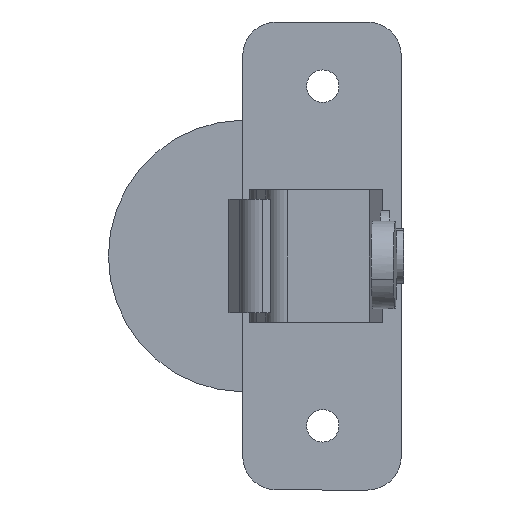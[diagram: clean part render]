
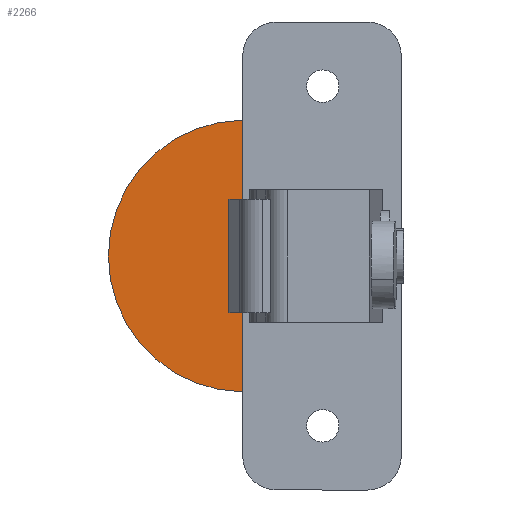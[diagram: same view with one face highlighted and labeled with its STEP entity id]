
A CAD part, left-side view. The second image highlights one B-rep face of the part: STEP entity #2266.
In plain terms, the highlighted planar face has unit normal (-1, 0, 0).
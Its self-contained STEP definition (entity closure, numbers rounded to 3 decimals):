
#9 = EDGE_CURVE ( 'NONE', #59, #2794, #2588, .T. ) ;
#10 = DIRECTION ( 'NONE',  ( 0., -1., 0. ) ) ;
#51 = EDGE_CURVE ( 'NONE', #229, #111, #1587, .T. ) ;
#59 = VERTEX_POINT ( 'NONE', #1267 ) ;
#111 = VERTEX_POINT ( 'NONE', #1090 ) ;
#210 = EDGE_CURVE ( 'NONE', #2549, #111, #2107, .T. ) ;
#229 = VERTEX_POINT ( 'NONE', #1329 ) ;
#275 = ORIENTED_EDGE ( 'NONE', *, *, #417, .T. ) ;
#281 = ORIENTED_EDGE ( 'NONE', *, *, #410, .T. ) ;
#286 = ORIENTED_EDGE ( 'NONE', *, *, #362, .T. ) ;
#288 = CARTESIAN_POINT ( 'NONE',  ( 151.39, 114.054, 118. ) ) ;
#289 = ORIENTED_EDGE ( 'NONE', *, *, #9, .T. ) ;
#295 = ORIENTED_EDGE ( 'NONE', *, *, #396, .T. ) ;
#303 = VERTEX_POINT ( 'NONE', #1551 ) ;
#317 = ORIENTED_EDGE ( 'NONE', *, *, #51, .F. ) ;
#326 = CARTESIAN_POINT ( 'NONE',  ( 151.39, 114.433, 135.996 ) ) ;
#328 = ORIENTED_EDGE ( 'NONE', *, *, #210, .T. ) ;
#333 = ORIENTED_EDGE ( 'NONE', *, *, #403, .F. ) ;
#362 = EDGE_CURVE ( 'NONE', #2794, #303, #2200, .T. ) ;
#396 = EDGE_CURVE ( 'NONE', #229, #59, #2197, .T. ) ;
#403 = EDGE_CURVE ( 'NONE', #2549, #2256, #2173, .T. ) ;
#410 = EDGE_CURVE ( 'NONE', #303, #2078, #2167, .T. ) ;
#417 = EDGE_CURVE ( 'NONE', #2078, #2256, #2177, .T. ) ;
#437 = DIRECTION ( 'NONE',  ( -1., 0., 0. ) ) ;
#779 = DIRECTION ( 'NONE',  ( 0., -1., 0. ) ) ;
#819 = CARTESIAN_POINT ( 'NONE',  ( 151.39, 114.054, 125.45 ) ) ;
#936 = DIRECTION ( 'NONE',  ( 0., 1., 0. ) ) ;
#992 = PLANE ( 'NONE',  #1661 ) ;
#1090 = CARTESIAN_POINT ( 'NONE',  ( 151.39, 114.259, 110.55 ) ) ;
#1143 = CARTESIAN_POINT ( 'NONE',  ( 151.39, 114.054, 110.55 ) ) ;
#1225 = AXIS2_PLACEMENT_3D ( 'NONE', #1770, #1772, #1852 ) ;
#1249 = CARTESIAN_POINT ( 'NONE',  ( 151.39, 114.433, 100.004 ) ) ;
#1267 = CARTESIAN_POINT ( 'NONE',  ( 151.39, 115.377, 125.45 ) ) ;
#1283 = DIRECTION ( 'NONE',  ( 0., 0., 1. ) ) ;
#1297 = CARTESIAN_POINT ( 'NONE',  ( 151.39, 114.259, 91.464 ) ) ;
#1329 = CARTESIAN_POINT ( 'NONE',  ( 151.39, 115.377, 110.55 ) ) ;
#1551 = CARTESIAN_POINT ( 'NONE',  ( 151.39, 114.259, 135.996 ) ) ;
#1571 = VECTOR ( 'NONE', #10, 1000. ) ;
#1587 = LINE ( 'NONE', #1143, #1571 ) ;
#1656 = CARTESIAN_POINT ( 'NONE',  ( 151.39, 114.259, 91.464 ) ) ;
#1661 = AXIS2_PLACEMENT_3D ( 'NONE', #288, #437, #936 ) ;
#1670 = CARTESIAN_POINT ( 'NONE',  ( 151.39, 114.259, 125.45 ) ) ;
#1705 = DIRECTION ( 'NONE',  ( 0., 0., 1. ) ) ;
#1713 = CARTESIAN_POINT ( 'NONE',  ( 151.39, 114.054, 100.004 ) ) ;
#1744 = DIRECTION ( 'NONE',  ( 0., 1., 0. ) ) ;
#1748 = CARTESIAN_POINT ( 'NONE',  ( 151.39, 115.377, 118. ) ) ;
#1757 = DIRECTION ( 'NONE',  ( 0., 0., 1. ) ) ;
#1758 = DIRECTION ( 'NONE',  ( 0., 1., 0. ) ) ;
#1770 = CARTESIAN_POINT ( 'NONE',  ( 151.39, 114.054, 118. ) ) ;
#1772 = DIRECTION ( 'NONE',  ( -1., 0., 0. ) ) ;
#1852 = DIRECTION ( 'NONE',  ( 0., 1., 0. ) ) ;
#2078 = VERTEX_POINT ( 'NONE', #326 ) ;
#2107 = LINE ( 'NONE', #1297, #2474 ) ;
#2162 = VECTOR ( 'NONE', #1758, 1000. ) ;
#2166 = VECTOR ( 'NONE', #1744, 1000. ) ;
#2167 = LINE ( 'NONE', #2450, #2162 ) ;
#2170 = VECTOR ( 'NONE', #1757, 1000. ) ;
#2173 = LINE ( 'NONE', #1713, #2166 ) ;
#2177 = CIRCLE ( 'NONE', #1225, 18. ) ;
#2192 = VECTOR ( 'NONE', #1705, 1000. ) ;
#2197 = LINE ( 'NONE', #1748, #2170 ) ;
#2200 = LINE ( 'NONE', #1656, #2192 ) ;
#2256 = VERTEX_POINT ( 'NONE', #1249 ) ;
#2266 = ADVANCED_FACE ( 'NONE', ( #2313 ), #992, .T. ) ;
#2313 = FACE_OUTER_BOUND ( 'NONE', #2734, .T. ) ;
#2418 = CARTESIAN_POINT ( 'NONE',  ( 151.39, 114.259, 100.004 ) ) ;
#2450 = CARTESIAN_POINT ( 'NONE',  ( 151.39, 115.154, 135.996 ) ) ;
#2474 = VECTOR ( 'NONE', #1283, 1000. ) ;
#2549 = VERTEX_POINT ( 'NONE', #2418 ) ;
#2585 = VECTOR ( 'NONE', #779, 1000. ) ;
#2588 = LINE ( 'NONE', #819, #2585 ) ;
#2734 = EDGE_LOOP ( 'NONE', ( #333, #328, #317, #295, #289, #286, #281, #275 ) ) ;
#2794 = VERTEX_POINT ( 'NONE', #1670 ) ;
